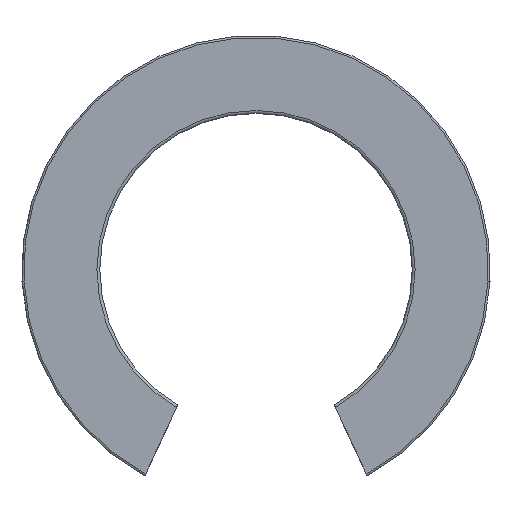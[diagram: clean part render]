
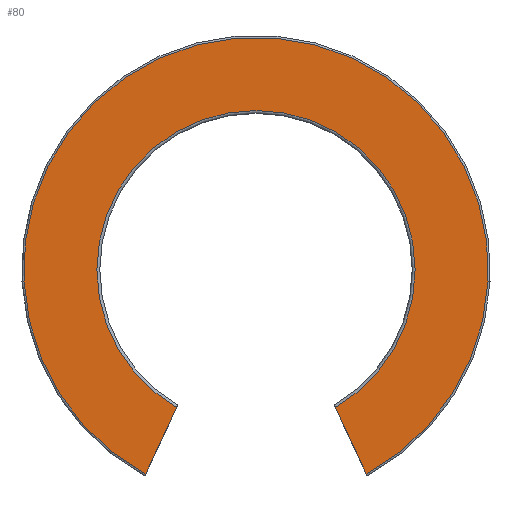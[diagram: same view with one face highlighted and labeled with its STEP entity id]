
A CAD part, left-side view. The second image highlights one B-rep face of the part: STEP entity #80.
In plain terms, the highlighted planar face has unit normal (-1, 0, 0).
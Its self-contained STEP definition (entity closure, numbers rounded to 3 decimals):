
#80=ADVANCED_FACE('',(#112),#113,.F.);
#112=FACE_OUTER_BOUND('',#164,.T.);
#113=PLANE('',#165);
#164=EDGE_LOOP('',(#261,#262,#263,#264));
#165=AXIS2_PLACEMENT_3D('',#265,#266,#267);
#261=ORIENTED_EDGE('',*,*,#428,.F.);
#262=ORIENTED_EDGE('',*,*,#454,.F.);
#263=ORIENTED_EDGE('',*,*,#462,.F.);
#264=ORIENTED_EDGE('',*,*,#463,.T.);
#265=CARTESIAN_POINT('',(0.0,44.619,0.0));
#266=DIRECTION('',(1.0,0.0,0.0));
#267=DIRECTION('',(0.0,0.0,-1.0));
#428=EDGE_CURVE('',#500,#501,#502,.T.);
#454=EDGE_CURVE('',#550,#500,#552,.T.);
#462=EDGE_CURVE('',#564,#550,#565,.T.);
#463=EDGE_CURVE('',#564,#501,#566,.T.);
#500=VERTEX_POINT('',#620);
#501=VERTEX_POINT('',#621);
#502=LINE('',#622,#623);
#550=VERTEX_POINT('',#710);
#552=CIRCLE('',#717,30.558);
#564=VERTEX_POINT('',#740);
#565=LINE('',#741,#742);
#566=CIRCLE('',#743,44.619);
#620=CARTESIAN_POINT('',(0.0,15.237,-26.488));
#621=CARTESIAN_POINT('',(0.0,21.194,-39.264));
#622=CARTESIAN_POINT('',(0.0,10.339,-15.985));
#623=VECTOR('',#820,1.0);
#710=CARTESIAN_POINT('',(0.0,-15.237,-26.488));
#717=AXIS2_PLACEMENT_3D('',#843,#844,#845);
#740=CARTESIAN_POINT('',(0.0,-21.194,-39.264));
#741=CARTESIAN_POINT('',(0.0,5.6,18.195));
#742=VECTOR('',#859,1.0);
#743=AXIS2_PLACEMENT_3D('',#860,#861,#862);
#820=DIRECTION('',(0.0,0.423,-0.906));
#843=CARTESIAN_POINT('',(0.0,0.0,0.0));
#844=DIRECTION('',(-1.0,0.0,0.0));
#845=DIRECTION('',(0.0,0.0,1.0));
#859=DIRECTION('',(0.0,0.423,0.906));
#860=CARTESIAN_POINT('',(0.0,0.0,0.0));
#861=DIRECTION('',(-1.0,0.0,0.0));
#862=DIRECTION('',(0.0,0.0,1.0));
